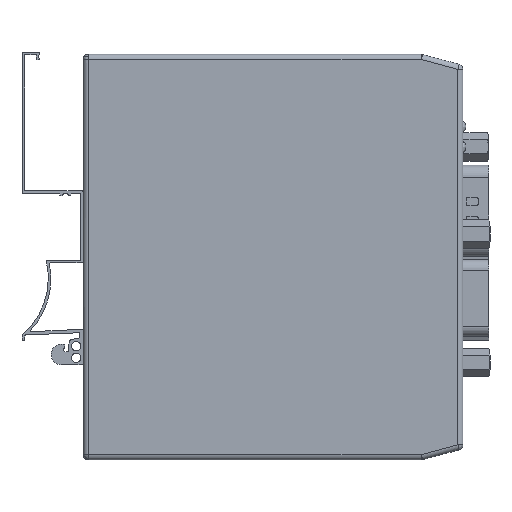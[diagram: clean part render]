
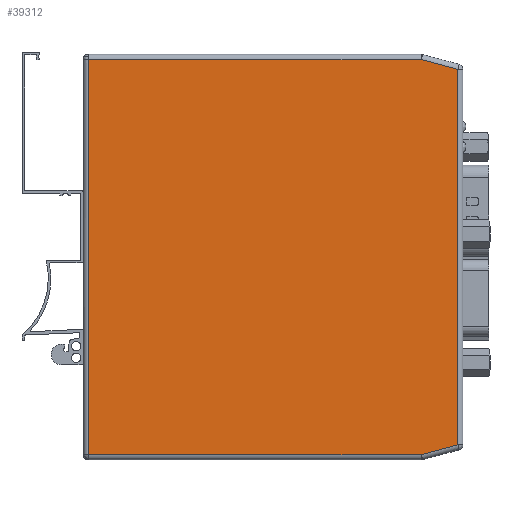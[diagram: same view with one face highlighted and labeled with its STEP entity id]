
A CAD part, front view. The second image highlights one B-rep face of the part: STEP entity #39312.
In plain terms, the highlighted planar face has unit normal (0, -1, 0).
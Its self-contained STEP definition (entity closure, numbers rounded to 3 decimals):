
#3143 = CARTESIAN_POINT ( 'NONE',  ( 28.878, -20., -38.5 ) ) ;
#3960 = LINE ( 'NONE', #6383, #28937 ) ;
#6135 = CARTESIAN_POINT ( 'NONE',  ( 28.878, -20., 38.5 ) ) ;
#6383 = CARTESIAN_POINT ( 'NONE',  ( -36.01, -20., 39.5 ) ) ;
#8599 = CARTESIAN_POINT ( 'NONE',  ( 0., -20., 38.5 ) ) ;
#8901 = DIRECTION ( 'NONE',  ( -1., 0., 0. ) ) ;
#9597 = VERTEX_POINT ( 'NONE', #27370 ) ;
#9815 = DIRECTION ( 'NONE',  ( 0., 0., -1. ) ) ;
#9867 = VERTEX_POINT ( 'NONE', #6135 ) ;
#10171 = EDGE_CURVE ( 'NONE', #9597, #9867, #27043, .T. ) ;
#11483 = LINE ( 'NONE', #8599, #40719 ) ;
#13049 = EDGE_CURVE ( 'NONE', #41249, #9597, #22940, .T. ) ;
#14249 = VERTEX_POINT ( 'NONE', #23663 ) ;
#14961 = CARTESIAN_POINT ( 'NONE',  ( 0., -20., 39.5 ) ) ;
#15651 = DIRECTION ( 'NONE',  ( 0., 0., 1. ) ) ;
#16071 = CARTESIAN_POINT ( 'NONE',  ( 0., -20., -38.5 ) ) ;
#16936 = CARTESIAN_POINT ( 'NONE',  ( 36.01, -20., -36.589 ) ) ;
#17985 = VECTOR ( 'NONE', #23907, 1000. ) ;
#18356 = DIRECTION ( 'NONE',  ( 0., 0., -1. ) ) ;
#20015 = LINE ( 'NONE', #16071, #38153 ) ;
#20022 = ORIENTED_EDGE ( 'NONE', *, *, #10171, .T. ) ;
#20325 = EDGE_CURVE ( 'NONE', #35363, #14249, #3960, .T. ) ;
#21598 = PLANE ( 'NONE',  #37080 ) ;
#22169 = EDGE_CURVE ( 'NONE', #9867, #35363, #11483, .T. ) ;
#22435 = FACE_OUTER_BOUND ( 'NONE', #39983, .T. ) ;
#22940 = LINE ( 'NONE', #35999, #41081 ) ;
#23663 = CARTESIAN_POINT ( 'NONE',  ( -36.01, -20., -38.5 ) ) ;
#23907 = DIRECTION ( 'NONE',  ( -0.966, 0., 0.259 ) ) ;
#24897 = CARTESIAN_POINT ( 'NONE',  ( -36.01, -20., 38.5 ) ) ;
#25268 = DIRECTION ( 'NONE',  ( 0.966, 0., 0.259 ) ) ;
#25559 = VERTEX_POINT ( 'NONE', #3143 ) ;
#27043 = LINE ( 'NONE', #32091, #17985 ) ;
#27370 = CARTESIAN_POINT ( 'NONE',  ( 36.01, -20., 36.589 ) ) ;
#28896 = VECTOR ( 'NONE', #25268, 1000. ) ;
#28937 = VECTOR ( 'NONE', #9815, 1000. ) ;
#29302 = ORIENTED_EDGE ( 'NONE', *, *, #37286, .T. ) ;
#29325 = ORIENTED_EDGE ( 'NONE', *, *, #40595, .T. ) ;
#30522 = ORIENTED_EDGE ( 'NONE', *, *, #20325, .T. ) ;
#32091 = CARTESIAN_POINT ( 'NONE',  ( 36.01, -20., 36.589 ) ) ;
#32428 = ORIENTED_EDGE ( 'NONE', *, *, #13049, .T. ) ;
#34396 = ORIENTED_EDGE ( 'NONE', *, *, #22169, .T. ) ;
#35363 = VERTEX_POINT ( 'NONE', #24897 ) ;
#35999 = CARTESIAN_POINT ( 'NONE',  ( 36.01, -20., 39.5 ) ) ;
#37080 = AXIS2_PLACEMENT_3D ( 'NONE', #14961, #38737, #18356 ) ;
#37286 = EDGE_CURVE ( 'NONE', #25559, #41249, #39020, .T. ) ;
#38153 = VECTOR ( 'NONE', #39866, 1000. ) ;
#38737 = DIRECTION ( 'NONE',  ( 0., -1., 0. ) ) ;
#39020 = LINE ( 'NONE', #42235, #28896 ) ;
#39312 = ADVANCED_FACE ( 'NONE', ( #22435 ), #21598, .T. ) ;
#39866 = DIRECTION ( 'NONE',  ( 1., 0., 0. ) ) ;
#39983 = EDGE_LOOP ( 'NONE', ( #34396, #30522, #29325, #29302, #32428, #20022 ) ) ;
#40595 = EDGE_CURVE ( 'NONE', #14249, #25559, #20015, .T. ) ;
#40719 = VECTOR ( 'NONE', #8901, 1000. ) ;
#41081 = VECTOR ( 'NONE', #15651, 1000. ) ;
#41249 = VERTEX_POINT ( 'NONE', #16936 ) ;
#42235 = CARTESIAN_POINT ( 'NONE',  ( 28.878, -20., -38.5 ) ) ;
